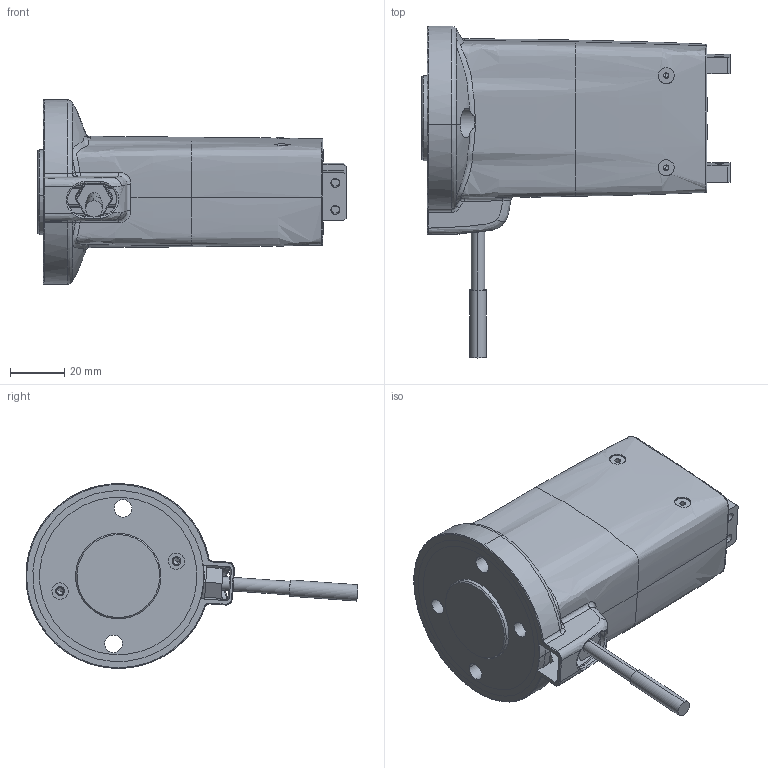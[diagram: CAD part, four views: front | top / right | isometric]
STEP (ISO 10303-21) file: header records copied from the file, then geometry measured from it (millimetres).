
FILE_DESCRIPTION(('CATIA V5 STEP Exchange'),'2;1');
FILE_NAME('F:\工作文件GP\EFG 对外资料\EFG对外资料\EFG-L\EFG-L.stp','2018-09-27T06:01:08+00:00',('none'),('none'),'CATIA Version 5 Release 20 GA (IN-10)','CATIA V5 STEP AP203','none');
FILE_SCHEMA(('CONFIG_CONTROL_DESIGN'));
Length unit declared in the file: millimetre
Products named in the file (3): EFG-L; EFG-12; Z-200-0004-02
Assembly tree (21 placements, depth 4):
  EFG-L
    #58
    #14186
    EFG-12
      Z-200-0004-02
        #14959
        #18035  x2
        #19287
        #19960  x2
        #20676  x8
      #21555
      #24501
      #27315
Bounding box: 113.6 x 122.28 x 67.97 mm (x, y, z)
Volume: 148756.6 mm3; surface area: 95986.7 mm2
Topology: 19 solids, 19 shells, 1000 faces, 2558 edges, 1610 vertices
Faces by surface type: plane 392, cylinder 275, bspline 231, cone 102
Entity records: 27266 total; most frequent: CARTESIAN_POINT 11877, ORIENTED_EDGE 3816, DIRECTION 2091, EDGE_CURVE 1908, VERTEX_POINT 1218, EDGE_LOOP 864, AXIS2_PLACEMENT_3D 845, VECTOR 839
